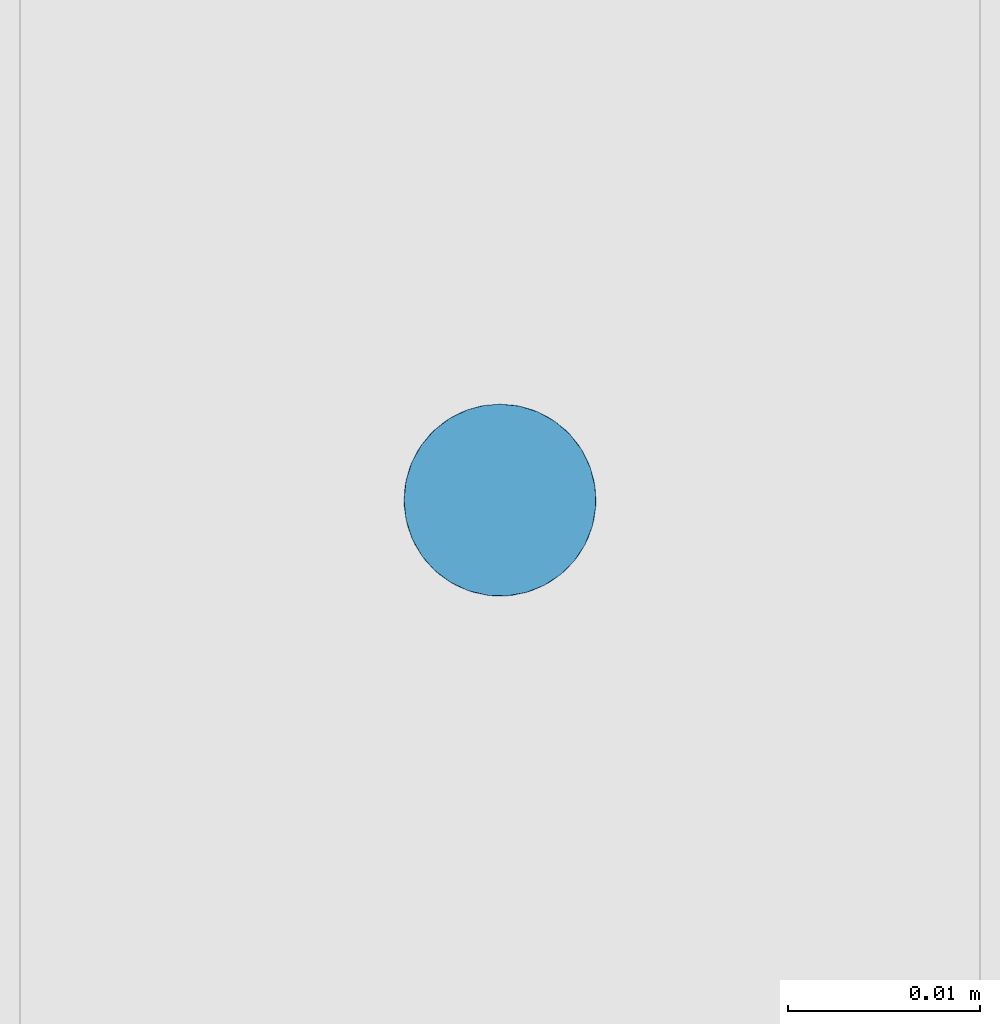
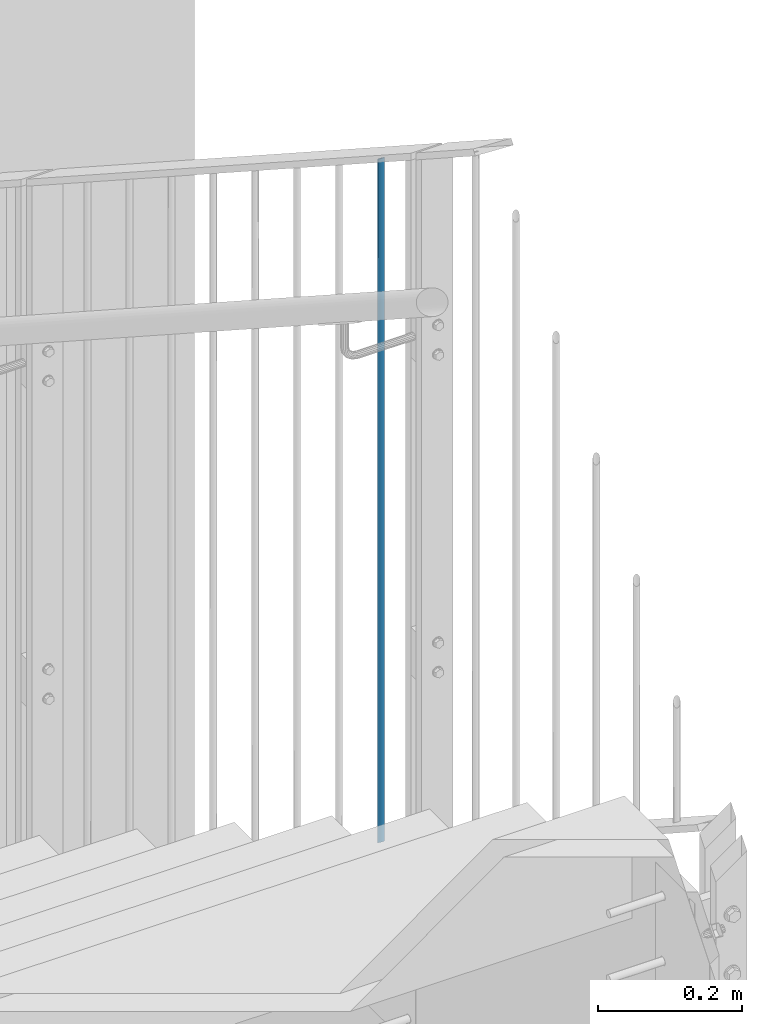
# One storey, part 42 of 296: 1 column.
"""IFC2X3 building model written with IfcOpenShell, lengths in millimetres."""

from ifc_helpers import new_model, entity, si_unit, converted_unit, frame, origin, origin_with_axes, origin_2d, place, context, project, spatial, circle, extrude, clip, halfspace, material, element, save


model = new_model("IFC2X3")

# Units and contexts
model_context = context("Model", 3, precision=1e-09, world=origin_with_axes())
ifc_project = project(units=[si_unit("LENGTHUNIT", "METRE", prefix="MILLI"), si_unit("AREAUNIT", "SQUARE_METRE"), si_unit("VOLUMEUNIT", "CUBIC_METRE"), converted_unit("PLANEANGLEUNIT", "DEGREE", entity("IfcPlaneAngleMeasure", 0.01745329), si_unit("PLANEANGLEUNIT", "RADIAN"), dimensions=[0, 0, 0, 0, 0, 0, 0])], contexts=[model_context])

# Site, building, storey
site_placement = place(None, origin_with_axes())
site = spatial("IfcSite", under=ifc_project, at=site_placement, Name="TZD-S?d | Treppenhausgel?nder", CompositionType="ELEMENT")
building_placement = place(site_placement, origin_with_axes())
building = spatial("IfcBuilding", under=site, at=building_placement, Name="Struktur 1", CompositionType="ELEMENT")
storey_placement = place(building_placement, origin_with_axes())
storey = spatial("IfcBuildingStorey", under=building, at=storey_placement, Name="Default Storey", CompositionType="ELEMENT", Elevation=0.0)

# Column
ifc_material = material(Name="S235JR")
column_placement = place(None, frame((5894.999, -1386.3888889, 8332.433247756), z_axis=(0.0, 0.0, -1.0), x_axis=(0.0, 1.0, 0.0)))
element("IfcColumn", 1, at=column_placement, inside=storey, material=ifc_material, Name="-", ObjectType="-", context=model_context, shape_type="Clipping", body=[
    clip(clip(extrude(circle(Radius=5.0, at=origin_2d()), origin(), (0.0, 0.0, -1.0), 1184.934996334), halfspace(frame((4785.112356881, -5894.999, 3084.752912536), z_axis=(0.543608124, 0.0, -0.839339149), x_axis=(0.0, -1.0, 0.0)), True)), halfspace(frame((5312.639572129, -5894.999, 2270.242929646), z_axis=(-0.543608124, 0.0, 0.839339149), x_axis=(0.0, 1.0, 0.0)), True)),
])

save(model, "model.ifc")
